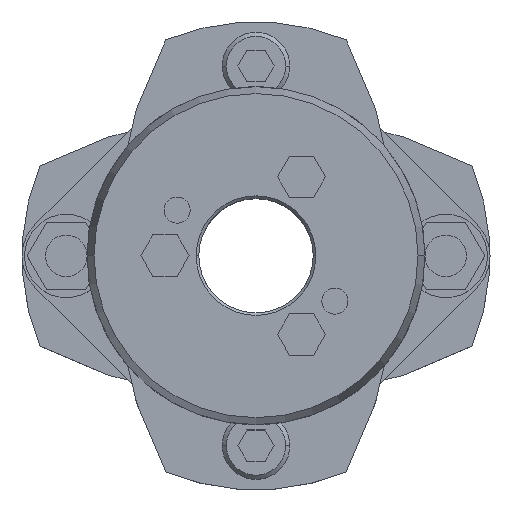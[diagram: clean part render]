
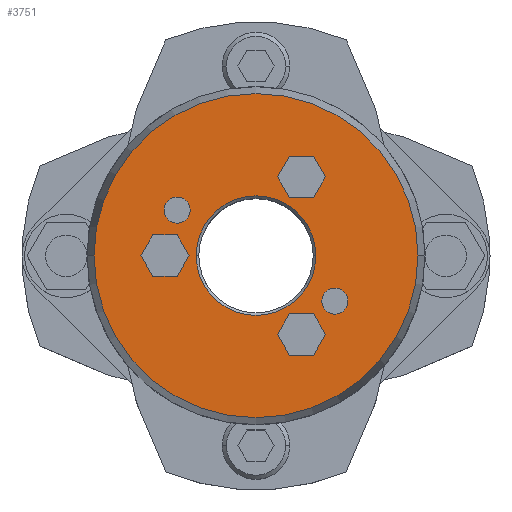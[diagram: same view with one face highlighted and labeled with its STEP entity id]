
A CAD part, top view. The second image highlights one B-rep face of the part: STEP entity #3751.
In plain terms, the highlighted planar face has unit normal (0, 0, 1).
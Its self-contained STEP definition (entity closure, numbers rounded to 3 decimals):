
#1505=CARTESIAN_POINT('',(-11.5,0.,39.25));
#1506=VERTEX_POINT('',#1505);
#1522=CARTESIAN_POINT('',(11.5,0.,39.25));
#1523=VERTEX_POINT('',#1522);
#1530=CARTESIAN_POINT('',(0.,0.,39.25));
#1531=DIRECTION('',(0.0,0.0,1.0));
#1532=DIRECTION('',(-1.0,0.0,0.0));
#1533=AXIS2_PLACEMENT_3D('',#1530,#1531,#1532);
#1534=CIRCLE('',#1533,11.5);
#1535=EDGE_CURVE('',#1523,#1506,#1534,.T.);
#1651=CARTESIAN_POINT('',(31.16,0.,39.25));
#1652=VERTEX_POINT('',#1651);
#1661=CARTESIAN_POINT('',(-31.16,0.,39.25));
#1662=VERTEX_POINT('',#1661);
#1663=CARTESIAN_POINT('',(0.,0.,39.25));
#1664=DIRECTION('',(0.0,0.0,-1.0));
#1665=DIRECTION('',(1.0,0.0,0.0));
#1666=AXIS2_PLACEMENT_3D('',#1663,#1664,#1665);
#1667=CIRCLE('',#1666,31.16);
#1668=EDGE_CURVE('',#1652,#1662,#1667,.T.);
#1985=CARTESIAN_POINT('',(12.655,-8.75,39.25));
#1986=VERTEX_POINT('',#1985);
#2002=CARTESIAN_POINT('',(17.655,-8.75,39.25));
#2003=VERTEX_POINT('',#2002);
#2010=CARTESIAN_POINT('',(15.155,-8.75,39.25));
#2011=DIRECTION('',(0.0,0.0,-1.0));
#2012=DIRECTION('',(-1.0,0.0,0.0));
#2013=AXIS2_PLACEMENT_3D('',#2010,#2011,#2012);
#2014=CIRCLE('',#2013,2.5);
#2015=EDGE_CURVE('',#1986,#2003,#2014,.T.);
#2027=CARTESIAN_POINT('',(-17.655,8.75,39.25));
#2028=VERTEX_POINT('',#2027);
#2044=CARTESIAN_POINT('',(-12.655,8.75,39.25));
#2045=VERTEX_POINT('',#2044);
#2052=CARTESIAN_POINT('',(-15.155,8.75,39.25));
#2053=DIRECTION('',(0.0,0.0,-1.0));
#2054=DIRECTION('',(-1.0,0.0,0.0));
#2055=AXIS2_PLACEMENT_3D('',#2052,#2053,#2054);
#2056=CIRCLE('',#2055,2.5);
#2057=EDGE_CURVE('',#2028,#2045,#2056,.T.);
#2140=CARTESIAN_POINT('',(-15.155,8.75,39.25));
#2141=DIRECTION('',(0.0,0.0,-1.0));
#2142=DIRECTION('',(-1.0,0.0,0.0));
#2143=AXIS2_PLACEMENT_3D('',#2140,#2141,#2142);
#2144=CIRCLE('',#2143,2.5);
#2145=EDGE_CURVE('',#2045,#2028,#2144,.T.);
#2174=CARTESIAN_POINT('',(15.155,-8.75,39.25));
#2175=DIRECTION('',(0.0,0.0,-1.0));
#2176=DIRECTION('',(-1.0,0.0,0.0));
#2177=AXIS2_PLACEMENT_3D('',#2174,#2175,#2176);
#2178=CIRCLE('',#2177,2.5);
#2179=EDGE_CURVE('',#2003,#1986,#2178,.T.);
#2217=CARTESIAN_POINT('',(4.131,15.155,39.25));
#2218=VERTEX_POINT('',#2217);
#2225=CARTESIAN_POINT('',(6.441,11.155,39.25));
#2226=VERTEX_POINT('',#2225);
#2227=CARTESIAN_POINT('',(6.441,11.155,39.25));
#2228=DIRECTION('',(-0.5,0.866,0.0));
#2229=VECTOR('',#2228,4.619);
#2230=LINE('',#2227,#2229);
#2231=EDGE_CURVE('',#2226,#2218,#2230,.T.);
#2255=CARTESIAN_POINT('',(6.441,19.155,39.25));
#2256=VERTEX_POINT('',#2255);
#2263=CARTESIAN_POINT('',(4.131,15.155,39.25));
#2264=DIRECTION('',(0.5,0.866,0.0));
#2265=VECTOR('',#2264,4.619);
#2266=LINE('',#2263,#2265);
#2267=EDGE_CURVE('',#2218,#2256,#2266,.T.);
#2286=CARTESIAN_POINT('',(11.059,19.155,39.25));
#2287=VERTEX_POINT('',#2286);
#2294=CARTESIAN_POINT('',(6.441,19.155,39.25));
#2295=DIRECTION('',(1.0,0.0,0.0));
#2296=VECTOR('',#2295,4.619);
#2297=LINE('',#2294,#2296);
#2298=EDGE_CURVE('',#2256,#2287,#2297,.T.);
#2317=CARTESIAN_POINT('',(13.369,15.155,39.25));
#2318=VERTEX_POINT('',#2317);
#2325=CARTESIAN_POINT('',(11.059,19.155,39.25));
#2326=DIRECTION('',(0.5,-0.866,0.0));
#2327=VECTOR('',#2326,4.619);
#2328=LINE('',#2325,#2327);
#2329=EDGE_CURVE('',#2287,#2318,#2328,.T.);
#2348=CARTESIAN_POINT('',(11.059,11.155,39.25));
#2349=VERTEX_POINT('',#2348);
#2356=CARTESIAN_POINT('',(13.369,15.155,39.25));
#2357=DIRECTION('',(-0.5,-0.866,0.0));
#2358=VECTOR('',#2357,4.619);
#2359=LINE('',#2356,#2358);
#2360=EDGE_CURVE('',#2318,#2349,#2359,.T.);
#2378=CARTESIAN_POINT('',(11.059,11.155,39.25));
#2379=DIRECTION('',(-1.0,0.0,0.0));
#2380=VECTOR('',#2379,4.619);
#2381=LINE('',#2378,#2380);
#2382=EDGE_CURVE('',#2349,#2226,#2381,.T.);
#2417=CARTESIAN_POINT('',(-22.119,0.,39.25));
#2418=VERTEX_POINT('',#2417);
#2425=CARTESIAN_POINT('',(-19.809,-4.,39.25));
#2426=VERTEX_POINT('',#2425);
#2427=CARTESIAN_POINT('',(-19.809,-4.,39.25));
#2428=DIRECTION('',(-0.5,0.866,0.0));
#2429=VECTOR('',#2428,4.619);
#2430=LINE('',#2427,#2429);
#2431=EDGE_CURVE('',#2426,#2418,#2430,.T.);
#2455=CARTESIAN_POINT('',(-19.809,4.,39.25));
#2456=VERTEX_POINT('',#2455);
#2463=CARTESIAN_POINT('',(-22.119,0.,39.25));
#2464=DIRECTION('',(0.5,0.866,0.0));
#2465=VECTOR('',#2464,4.619);
#2466=LINE('',#2463,#2465);
#2467=EDGE_CURVE('',#2418,#2456,#2466,.T.);
#2486=CARTESIAN_POINT('',(-15.191,4.,39.25));
#2487=VERTEX_POINT('',#2486);
#2494=CARTESIAN_POINT('',(-19.809,4.,39.25));
#2495=DIRECTION('',(1.0,0.0,0.0));
#2496=VECTOR('',#2495,4.619);
#2497=LINE('',#2494,#2496);
#2498=EDGE_CURVE('',#2456,#2487,#2497,.T.);
#2517=CARTESIAN_POINT('',(-12.881,0.,39.25));
#2518=VERTEX_POINT('',#2517);
#2525=CARTESIAN_POINT('',(-15.191,4.,39.25));
#2526=DIRECTION('',(0.5,-0.866,0.0));
#2527=VECTOR('',#2526,4.619);
#2528=LINE('',#2525,#2527);
#2529=EDGE_CURVE('',#2487,#2518,#2528,.T.);
#2548=CARTESIAN_POINT('',(-15.191,-4.,39.25));
#2549=VERTEX_POINT('',#2548);
#2556=CARTESIAN_POINT('',(-12.881,0.,39.25));
#2557=DIRECTION('',(-0.5,-0.866,0.0));
#2558=VECTOR('',#2557,4.619);
#2559=LINE('',#2556,#2558);
#2560=EDGE_CURVE('',#2518,#2549,#2559,.T.);
#2578=CARTESIAN_POINT('',(-15.191,-4.,39.25));
#2579=DIRECTION('',(-1.0,0.0,0.0));
#2580=VECTOR('',#2579,4.619);
#2581=LINE('',#2578,#2580);
#2582=EDGE_CURVE('',#2549,#2426,#2581,.T.);
#2617=CARTESIAN_POINT('',(4.131,-15.155,39.25));
#2618=VERTEX_POINT('',#2617);
#2625=CARTESIAN_POINT('',(6.441,-19.155,39.25));
#2626=VERTEX_POINT('',#2625);
#2627=CARTESIAN_POINT('',(6.441,-19.155,39.25));
#2628=DIRECTION('',(-0.5,0.866,0.0));
#2629=VECTOR('',#2628,4.619);
#2630=LINE('',#2627,#2629);
#2631=EDGE_CURVE('',#2626,#2618,#2630,.T.);
#2655=CARTESIAN_POINT('',(6.441,-11.155,39.25));
#2656=VERTEX_POINT('',#2655);
#2663=CARTESIAN_POINT('',(4.131,-15.155,39.25));
#2664=DIRECTION('',(0.5,0.866,0.0));
#2665=VECTOR('',#2664,4.619);
#2666=LINE('',#2663,#2665);
#2667=EDGE_CURVE('',#2618,#2656,#2666,.T.);
#2686=CARTESIAN_POINT('',(11.059,-11.155,39.25));
#2687=VERTEX_POINT('',#2686);
#2694=CARTESIAN_POINT('',(6.441,-11.155,39.25));
#2695=DIRECTION('',(1.0,0.0,0.0));
#2696=VECTOR('',#2695,4.619);
#2697=LINE('',#2694,#2696);
#2698=EDGE_CURVE('',#2656,#2687,#2697,.T.);
#2717=CARTESIAN_POINT('',(13.369,-15.155,39.25));
#2718=VERTEX_POINT('',#2717);
#2725=CARTESIAN_POINT('',(11.059,-11.155,39.25));
#2726=DIRECTION('',(0.5,-0.866,0.0));
#2727=VECTOR('',#2726,4.619);
#2728=LINE('',#2725,#2727);
#2729=EDGE_CURVE('',#2687,#2718,#2728,.T.);
#2748=CARTESIAN_POINT('',(11.059,-19.155,39.25));
#2749=VERTEX_POINT('',#2748);
#2756=CARTESIAN_POINT('',(13.369,-15.155,39.25));
#2757=DIRECTION('',(-0.5,-0.866,0.0));
#2758=VECTOR('',#2757,4.619);
#2759=LINE('',#2756,#2758);
#2760=EDGE_CURVE('',#2718,#2749,#2759,.T.);
#2778=CARTESIAN_POINT('',(11.059,-19.155,39.25));
#2779=DIRECTION('',(-1.0,0.0,0.0));
#2780=VECTOR('',#2779,4.619);
#2781=LINE('',#2778,#2780);
#2782=EDGE_CURVE('',#2749,#2626,#2781,.T.);
#3690=CARTESIAN_POINT('',(0.,0.,39.25));
#3691=DIRECTION('',(0.0,0.0,-1.0));
#3692=DIRECTION('',(1.0,0.0,0.0));
#3693=AXIS2_PLACEMENT_3D('',#3690,#3691,#3692);
#3694=CIRCLE('',#3693,31.16);
#3695=EDGE_CURVE('',#1662,#1652,#3694,.T.);
#3700=CARTESIAN_POINT('',(-2.682,0.,39.25));
#3701=DIRECTION('',(0.0,0.0,1.0));
#3702=DIRECTION('',(-1.0,0.0,0.0));
#3703=AXIS2_PLACEMENT_3D('',#3700,#3701,#3702);
#3704=PLANE('',#3703);
#3705=ORIENTED_EDGE('',*,*,#3695,.F.);
#3706=ORIENTED_EDGE('',*,*,#1668,.F.);
#3707=EDGE_LOOP('',(#3705,#3706));
#3708=FACE_OUTER_BOUND('',#3707,.T.);
#3709=ORIENTED_EDGE('',*,*,#2057,.T.);
#3710=ORIENTED_EDGE('',*,*,#2145,.T.);
#3711=EDGE_LOOP('',(#3709,#3710));
#3712=FACE_BOUND('',#3711,.T.);
#3713=ORIENTED_EDGE('',*,*,#2015,.T.);
#3714=ORIENTED_EDGE('',*,*,#2179,.T.);
#3715=EDGE_LOOP('',(#3713,#3714));
#3716=FACE_BOUND('',#3715,.T.);
#3717=ORIENTED_EDGE('',*,*,#2231,.T.);
#3718=ORIENTED_EDGE('',*,*,#2267,.T.);
#3719=ORIENTED_EDGE('',*,*,#2298,.T.);
#3720=ORIENTED_EDGE('',*,*,#2329,.T.);
#3721=ORIENTED_EDGE('',*,*,#2360,.T.);
#3722=ORIENTED_EDGE('',*,*,#2382,.T.);
#3723=EDGE_LOOP('',(#3717,#3718,#3719,#3720,#3721,#3722));
#3724=FACE_BOUND('',#3723,.T.);
#3725=ORIENTED_EDGE('',*,*,#2431,.T.);
#3726=ORIENTED_EDGE('',*,*,#2467,.T.);
#3727=ORIENTED_EDGE('',*,*,#2498,.T.);
#3728=ORIENTED_EDGE('',*,*,#2529,.T.);
#3729=ORIENTED_EDGE('',*,*,#2560,.T.);
#3730=ORIENTED_EDGE('',*,*,#2582,.T.);
#3731=EDGE_LOOP('',(#3725,#3726,#3727,#3728,#3729,#3730));
#3732=FACE_BOUND('',#3731,.T.);
#3733=ORIENTED_EDGE('',*,*,#2631,.T.);
#3734=ORIENTED_EDGE('',*,*,#2667,.T.);
#3735=ORIENTED_EDGE('',*,*,#2698,.T.);
#3736=ORIENTED_EDGE('',*,*,#2729,.T.);
#3737=ORIENTED_EDGE('',*,*,#2760,.T.);
#3738=ORIENTED_EDGE('',*,*,#2782,.T.);
#3739=EDGE_LOOP('',(#3733,#3734,#3735,#3736,#3737,#3738));
#3740=FACE_BOUND('',#3739,.T.);
#3741=ORIENTED_EDGE('',*,*,#1535,.F.);
#3742=CARTESIAN_POINT('',(0.,0.,39.25));
#3743=DIRECTION('',(0.0,0.0,1.0));
#3744=DIRECTION('',(-1.0,0.0,0.0));
#3745=AXIS2_PLACEMENT_3D('',#3742,#3743,#3744);
#3746=CIRCLE('',#3745,11.5);
#3747=EDGE_CURVE('',#1506,#1523,#3746,.T.);
#3748=ORIENTED_EDGE('',*,*,#3747,.F.);
#3749=EDGE_LOOP('',(#3741,#3748));
#3750=FACE_BOUND('',#3749,.T.);
#3751=ADVANCED_FACE('',(#3708,#3712,#3716,#3724,#3732,#3740,#3750),#3704,.T.);
